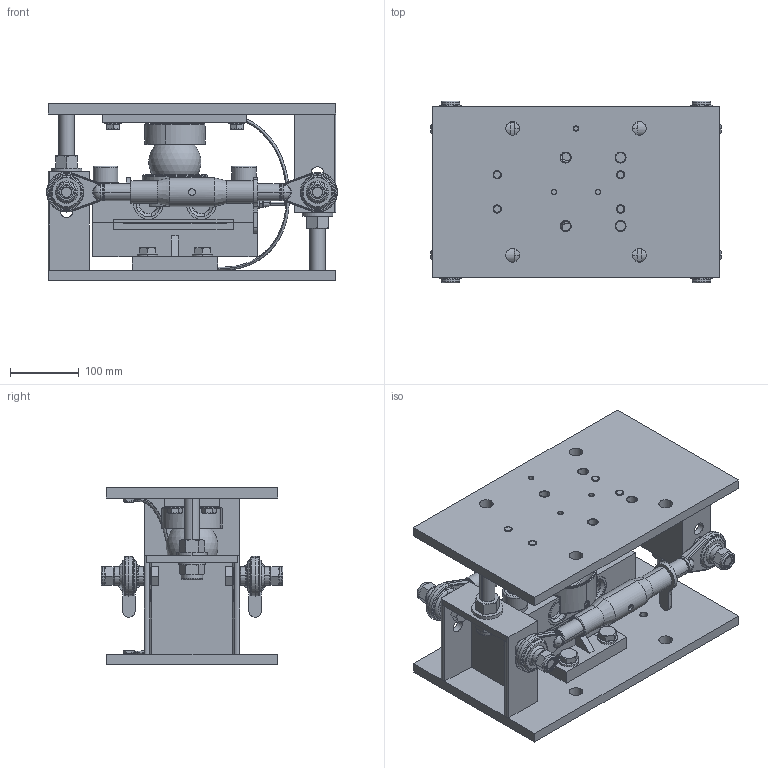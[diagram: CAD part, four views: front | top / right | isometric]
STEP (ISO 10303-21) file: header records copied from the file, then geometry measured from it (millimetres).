
FILE_DESCRIPTION((''),'1');
FILE_NAME('LMLAX_for-double-shear-beam.step','2020-07-27T09:43:24',(''),(''),'','','');
FILE_SCHEMA(('AUTOMOTIVE_DESIGN { 1 0 10303 214 1 1 1 1 }'));
Products named in the file (46): LMLAX for-double-shear-beam; LMLAX part 03; LMLAX part 04; LMLAX screw 01; LMLAX screw 02; LMLAX nut 01; LMLAX screw 03; LMLAX nut 02; LMLAX nut 03; LMLAX screw 04; LMLAX screw 05; LMLAX part 05; LMLAX part 06; LMLAX part 07; LMLAX part 08; LMLAX screw 07; LMLAX screw 08; LMLAX screw 10; LMLAX screw 11; LMLAX part 09; LMLAX part 10; LMLAX part 12; LMLAX cable 01; LMLAX part 13; LMLAX cable 02; LMLAX screw 12; LMLAX screw 13; LMLAX cable gland 01; LMLAX base 01; LMLAX spring 01; LMLAX nut 04; LMLAX load cell 01; LMLAX body 01; LMLAX part 14; LMLAX ball 01; LMLAX ball 02; LMLAX screw 14; LMLAX screw 15; LMLAX screw 16; LMLAX part 15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
Assembly tree (82 placements, depth 4):
  LMLAX for-double-shear-beam
    LMLAX for-double-shear-beam
    LMLAX part 03  x2
    LMLAX part 04
    LMLAX screw 01  x4
    LMLAX screw 02  x4
    LMLAX nut 01  x2
    LMLAX screw 03  x2
    LMLAX nut 02  x2
    LMLAX nut 03  x4
    LMLAX part 06
      LMLAX screw 04
        LMLAX screw 05
        LMLAX part 05
      LMLAX part 07
      LMLAX part 08
      LMLAX screw 07
        LMLAX screw 08
        LMLAX part 05
    LMLAX screw 10  x4
    LMLAX screw 11  x2
    LMLAX part 13
      LMLAX part 09
        LMLAX part 10
        LMLAX part 12
        LMLAX cable 01
      LMLAX cable 02
      LMLAX part 09
        LMLAX part 10
        LMLAX part 12
        LMLAX cable 01
    LMLAX screw 12  x4
    LMLAX screw 13  x4
    LMLAX load cell 01
      LMLAX cable gland 01
        LMLAX base 01
        LMLAX spring 01
        LMLAX nut 04
      LMLAX body 01
      LMLAX part 14
      LMLAX ball 01
      LMLAX ball 02
      LMLAX screw 14  x2
      LMLAX screw 15  x2
      LMLAX screw 16  x2
      LMLAX part 15  x2
      LMLAX base 03
    LMLAX part 06
      LMLAX screw 04
        LMLAX screw 05
        LMLAX part 05
      LMLAX part 07
      LMLAX part 08
      LMLAX screw 07
        LMLAX screw 08
        LMLAX part 05
Bounding box: 424 x 265 x 258.5 mm (x, y, z)
Volume: 6803387.8 mm3; surface area: 1310219.5 mm2
Topology: 70 solids, 98 shells, 2235 faces, 5360 edges, 3295 vertices
Faces by surface type: cylinder 704, plane 637, cone 482, torus 226, bspline 144, sphere 38, extrusion 4
Entity records: 43183 total; most frequent: CARTESIAN_POINT 15028, DIRECTION 5982, ORIENTED_EDGE 5308, EDGE_CURVE 2680, AXIS2_PLACEMENT_3D 2488, VERTEX_POINT 1675, CIRCLE 1302, EDGE_LOOP 1269
